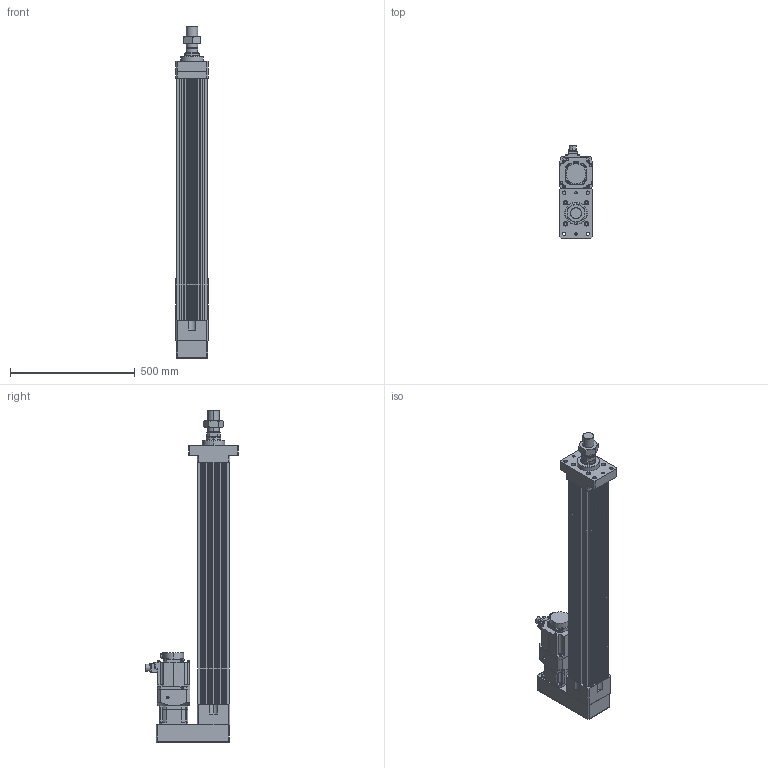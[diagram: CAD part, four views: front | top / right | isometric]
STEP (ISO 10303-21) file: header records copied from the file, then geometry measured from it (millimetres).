
FILE_DESCRIPTION (( 'STEP AP203' ), '1' );
FILE_NAME ('HES130NS(FS)(HS)-P750-W015G00-M-FMB.STEP', '2023-01-29T05:53:56', ( 'tms' ), ( '' ), 'SwSTEP 2.0', 'SolidWorks 2013', '' );
FILE_SCHEMA (( 'CONFIG_CONTROL_DESIGN' ));
Length unit declared in the file: millimetre
Products named in the file (8): AB115-003[HG-SR152]; M45X1.5P; HES130-P750-G120-FMB; HG-SR152; P0401400706; HES130NS(FS)(HS)-P750-W015G00-M-FMB; HES130 ROD M ST750; AB1151
Assembly tree (7 placements, depth 3):
  HES130NS(FS)(HS)-P750-W015G00-M-FMB
    HES130-P750-G120-FMB
    HES130 ROD M ST750
    M45X1.5P
    AB115-003[HG-SR152]
      AB1151
      P0401400706
    HG-SR152
Bounding box: 130 x 372.49 x 1332 mm (x, y, z)
Volume: 14453611.2 mm3; surface area: 1795215.7 mm2
Topology: 4 solids, 11 shells, 1082 faces, 2768 edges, 1799 vertices
Faces by surface type: cylinder 513, plane 489, cone 68, bspline 8, torus 4
Entity records: 34626 total; most frequent: CARTESIAN_POINT 6632, DIRECTION 5993, ORIENTED_EDGE 5484, EDGE_CURVE 2752, AXIS2_PLACEMENT_3D 2228, VERTEX_POINT 1799, VECTOR 1537, LINE 1537
